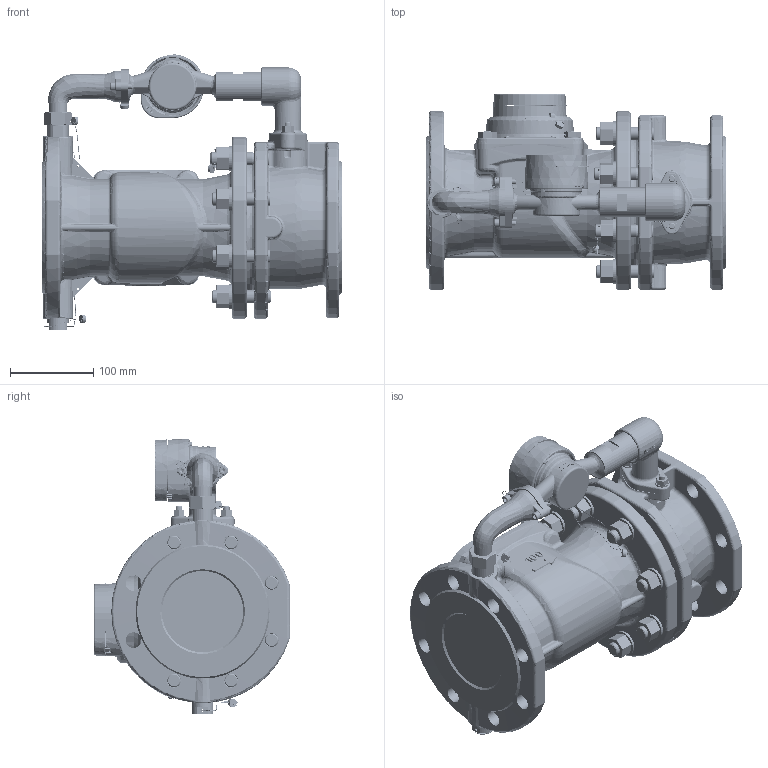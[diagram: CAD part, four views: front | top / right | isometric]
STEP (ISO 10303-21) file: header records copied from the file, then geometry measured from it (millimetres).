
FILE_DESCRIPTION (( 'STEP AP214' ), '1' );
FILE_NAME ('MWN_JS_100_4 IP68.STEP', '2025-08-05T12:10:08', ( '' ), ( '' ), 'SwSTEP 2.0', 'SolidWorks 2019', '' );
FILE_SCHEMA (( 'AUTOMOTIVE_DESIGN' ));
Length unit declared in the file: millimetre
Products named in the file (1): MWN_JS_100_4 IP68
Bounding box: 361 x 235.45 x 331.81 mm (x, y, z)
Volume: 7490248.9 mm3; surface area: 773920.6 mm2
Topology: 69 solids, 103 shells, 5566 faces, 13994 edges, 8616 vertices
Faces by surface type: plane 1832, cylinder 1311, bspline 1100, cone 707, torus 393, sphere 223
Entity records: 298594 total; most frequent: CARTESIAN_POINT 114977, ORIENTED_EDGE 27538, DIRECTION 22928, EDGE_CURVE 13769, AXIS2_PLACEMENT_3D 8867, VERTEX_POINT 8609, EDGE_LOOP 6014, FACE_OUTER_BOUND 5565
